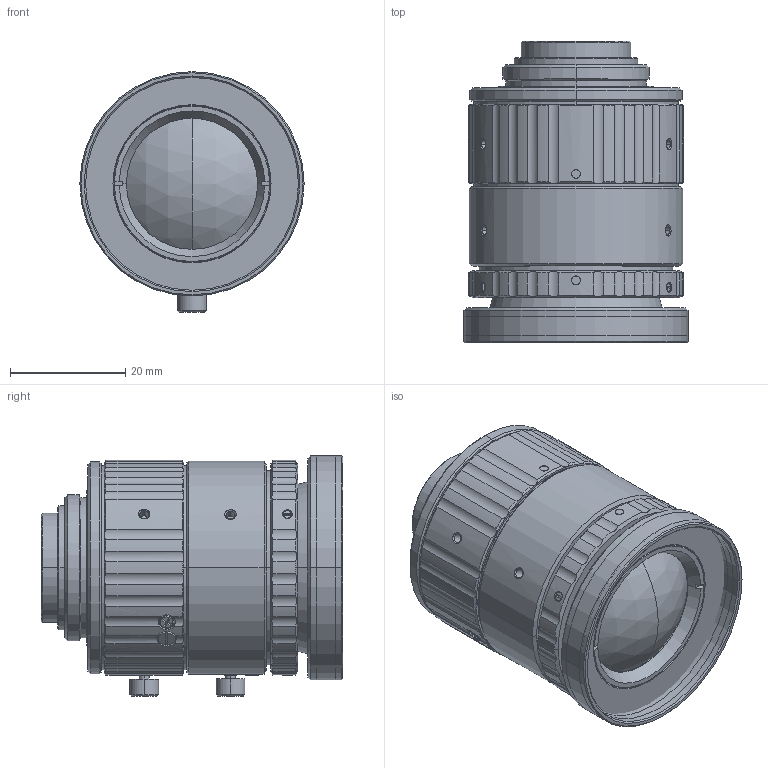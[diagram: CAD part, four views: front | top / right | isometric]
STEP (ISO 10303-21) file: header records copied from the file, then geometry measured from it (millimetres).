
FILE_DESCRIPTION (( 'STEP AP214' ), '1' );
FILE_NAME ('3D-drawing of V1226-MPZ_20190820.STEP', '2019-08-20T08:35:57', ( '' ), ( '' ), 'SwSTEP 2.0', 'SolidWorks 2013', '' );
FILE_SCHEMA (( 'AUTOMOTIVE_DESIGN' ));
Length unit declared in the file: millimetre
Products named in the file (3): V1226-MPZ_Mechnical limit_20190820; V1226-MPZ_Infinity_20190820; 3D-drawing of V1226-MPZ_20190820
Assembly tree (2 placements, depth 2):
  3D-drawing of V1226-MPZ_20190820
    V1226-MPZ_Infinity_20190820
    V1226-MPZ_Mechnical limit_20190820
Bounding box: 39 x 52.46 x 41.85 mm (x, y, z)
Surface area: 21038.4 mm2
Topology: 2 solids, 16 shells, 1086 faces, 2696 edges, 1714 vertices
Faces by surface type: cylinder 478, plane 322, cone 266, torus 12, sphere 8
Entity records: 38896 total; most frequent: CARTESIAN_POINT 9625, ORIENTED_EDGE 5392, DIRECTION 5242, EDGE_CURVE 2696, AXIS2_PLACEMENT_3D 2007, VERTEX_POINT 1714, VECTOR 1228, LINE 1228
